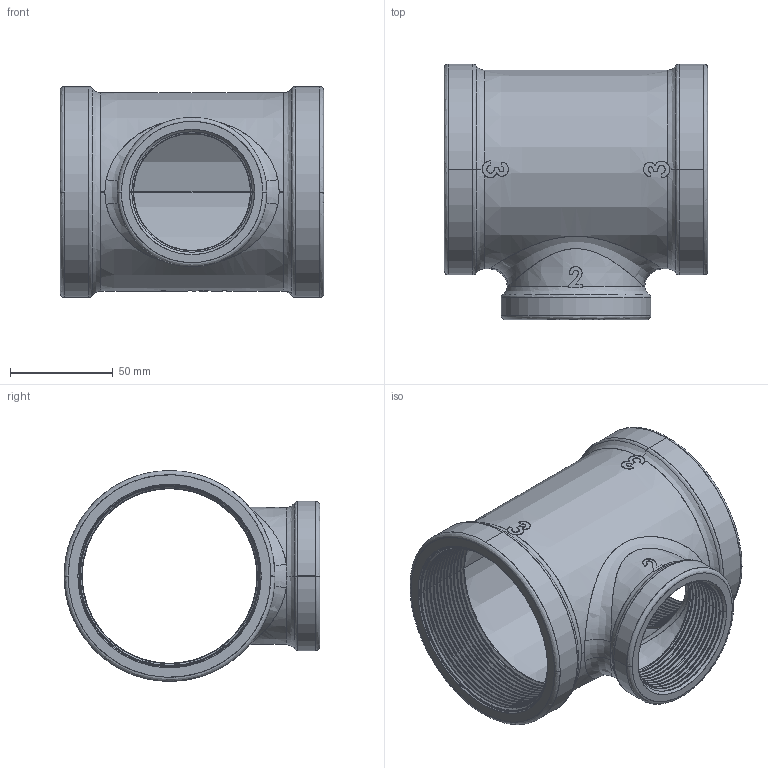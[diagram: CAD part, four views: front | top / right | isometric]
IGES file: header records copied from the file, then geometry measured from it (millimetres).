
Start section: SolidWorks IGES file using analytic representation for surfaces
Global section: file name: C:\Users\Joel Rosa\Desktop\Tubulação\12-45-XXX\12-45-055.IGS; native system: SolidWorks 2011; preprocessor: SolidWorks 2011; author: Joel Rosa; date: 121212.234854; units: millimetre
Bounding box: 128 x 124.2 x 102.4 mm (x, y, z)
Surface area: 100451.9 mm2 (no closed solid volume)
Topology: 0 solids, 0 shells, 532 faces, 5291 edges, 5291 vertices
Faces by surface type: bspline 352, revolution 180
